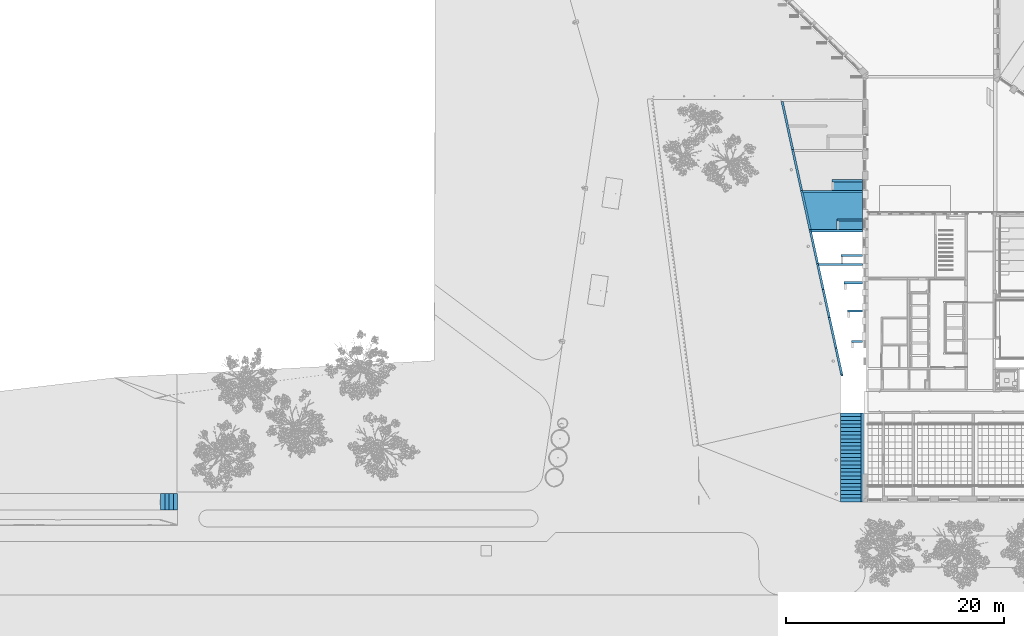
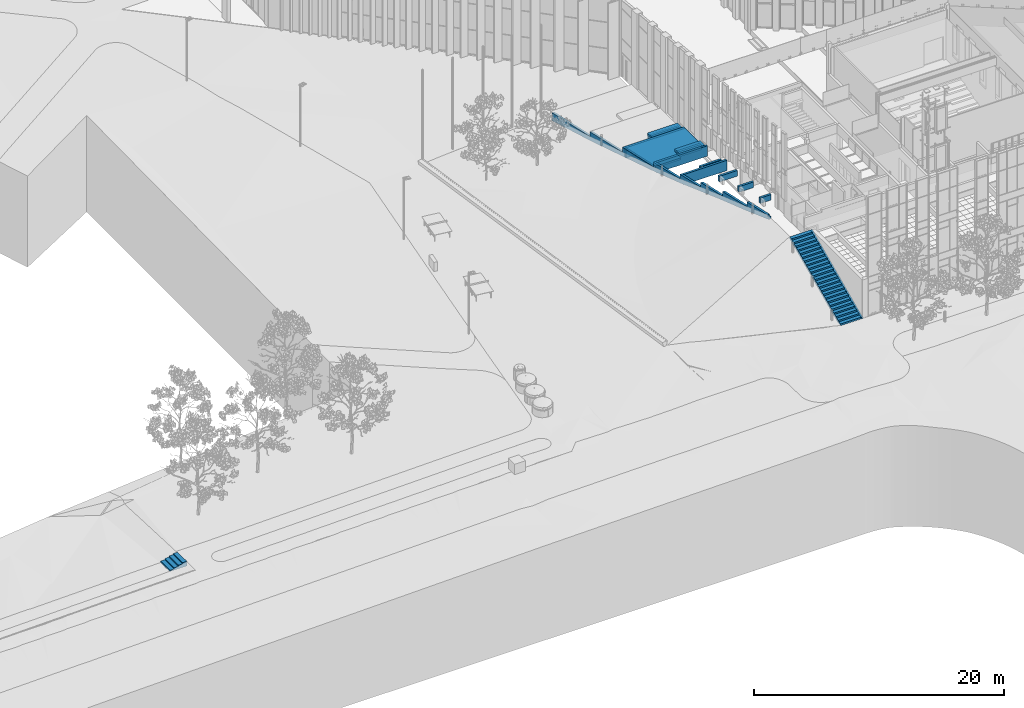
# One storey, part 138 of 246: 16 stairs.
"""IFC2X3 building model written with IfcOpenShell, lengths in millimetres."""

from ifc_helpers import new_model, entity, si_unit, converted_unit, derived_unit, money_unit, direction, frame, origin_with_axes, place, context, subcontext, project, spatial, faceted_brep, material, element, save


model = new_model("IFC2X3")

# Units and contexts
model_context = context("Model", 3, precision=0.01, world=origin_with_axes(), true_north=direction((0.0, 1.0)))
body_context = subcontext(model_context, "Body", "Model", "MODEL_VIEW")
ifc_project = project(units=[si_unit("LENGTHUNIT", "METRE", prefix="MILLI"), si_unit("AREAUNIT", "SQUARE_METRE"), si_unit("VOLUMEUNIT", "CUBIC_METRE"), converted_unit("PLANEANGLEUNIT", "DEGREE", entity("IfcPlaneAngleMeasure", 0.0174532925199), si_unit("PLANEANGLEUNIT", "RADIAN"), dimensions=[0, 0, 0, 0, 0, 0, 0]), si_unit("SOLIDANGLEUNIT", "STERADIAN"), money_unit("EUR"), converted_unit("TIMEUNIT", "Year", entity("IfcTimeMeasure", 31556926.0), si_unit("TIMEUNIT", "SECOND"), dimensions=[0, 0, 1, 0, 0, 0, 0]), si_unit("MASSUNIT", "GRAM", prefix="KILO"), si_unit("THERMODYNAMICTEMPERATUREUNIT", "DEGREE_CELSIUS"), si_unit("LUMINOUSINTENSITYUNIT", "LUMEN"), si_unit("ENERGYUNIT", "JOULE", prefix="MEGA"), derived_unit("THERMALCONDUCTANCEUNIT", [(si_unit("POWERUNIT", "WATT"), 1), (si_unit("LENGTHUNIT", "METRE"), -1), (si_unit("THERMODYNAMICTEMPERATUREUNIT", "KELVIN"), -1)]), derived_unit("SPECIFICHEATCAPACITYUNIT", [(si_unit("ENERGYUNIT", "JOULE"), 1), (si_unit("MASSUNIT", "GRAM", prefix="KILO"), -1), (si_unit("THERMODYNAMICTEMPERATUREUNIT", "KELVIN"), -1)]), derived_unit("MASSDENSITYUNIT", [(si_unit("MASSUNIT", "GRAM", prefix="KILO"), 1), (si_unit("VOLUMEUNIT", "CUBIC_METRE"), -1)])], contexts=[model_context])

# Site, building, storey
site_placement = place(None, origin_with_axes())
site = spatial("IfcSite", under=ifc_project, at=site_placement, Name="L.Koidula tn 11b", CompositionType="ELEMENT")
building_placement = place(site_placement, origin_with_axes())
building = spatial("IfcBuilding", under=site, at=building_placement, Name="Rakvere Riigigümnaasium", CompositionType="ELEMENT")
storey_placement = place(building_placement, origin_with_axes())
storey = spatial("IfcBuildingStorey", under=building, at=storey_placement, Name="1.korrus 0,00", CompositionType="ELEMENT", Elevation=0.0)

# Stairs
ifc_material_1 = material(Name="Betoon")
stair_1_placement = place(storey_placement, frame((27490.4090442, 41880.4554916, -495.0), z_axis=(0.0, 0.0, 1.0), x_axis=(0.213233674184, -0.977001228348, 0.0)))
element("IfcStair", 1, at=stair_1_placement, inside=storey, material=ifc_material_1, Name="Astmestik-1", ShapeType="NOTDEFINED", context=body_context, shape_type="Brep", body=[
    faceted_brep([(8516.01498022, 0.0, 979.335991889), (8516.01498022, 200.0, 979.335991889), (12200.5988738, 200.0, 1439.18349166), (12200.5988738, 0.0, 1439.18349166), (4677.83906907, 200.0, 515.145643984), (4677.83906907, 0.0, 515.145643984), (248.358679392, 200.0, 131.873693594), (248.358679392, 200.0, 914.0), (4741.95960415, 200.0, 914.0), (4741.95960415, 200.0, 940.0), (4741.95960415, 200.0, 1379.0), (8580.13642963, 200.0, 1379.0), (8580.13642963, 200.0, 1405.0), (8580.13642963, 200.0, 1844.0), (12264.7203232, 200.0, 1844.0), (12264.7203232, 200.0, 1870.0), (12264.7203232, 200.0, 2309.0), (15437.6947168, 200.0, 2309.0), (15437.6947168, 200.0, 2335.0), (15437.6947168, 200.0, 2774.0), (17894.1911166, 200.0, 2774.0), (17894.1911166, 200.0, 2800.0), (17894.1911166, 200.0, 3239.0), (20504.2185413, 200.0, 3239.0), (20504.2185413, 200.0, 3265.0), (20504.2185413, 200.0, 3704.0), (23370.1310077, 200.0, 3704.0), (23370.1310077, 200.0, 3730.0), (23370.1310077, 200.0, 4169.0), (25816.3684593, 200.0, 4169.0), (25816.3684593, 200.0, 4045.0), (25968.1180589, 200.0, 4045.0), (25968.1180589, 200.0, 3806.48943747), (23306.0095583, 200.0, 3299.88574973), (20440.0970919, 200.0, 2839.39379407), (17830.0696671, 200.0, 2368.13026927), (15373.5732674, 200.0, 1908.01363287), (15373.5732674, 0.0, 1908.01363287), (17830.0696671, 0.0, 2368.13026927), (20440.0970919, 0.0, 2839.39379407), (23306.0095583, 0.0, 3299.88574973), (25968.1180589, 0.0, 3806.48943747), (25968.1180589, 0.0, 4045.0), (25772.7178132, 0.0, 4045.0), (25772.7178132, 0.0, 4169.0), (23326.4803616, 0.0, 4169.0), (23326.4803616, 0.0, 3730.0), (23326.4803616, 0.0, 3704.0), (20460.5678952, 0.0, 3704.0), (20460.5678952, 0.0, 3265.0), (20460.5678952, 0.0, 3239.0), (17850.5404705, 0.0, 3239.0), (17850.5404705, 0.0, 2800.0), (17850.5404705, 0.0, 2774.0), (15394.0440707, 0.0, 2774.0), (15394.0440707, 0.0, 2335.0), (15394.0440707, 0.0, 2309.0), (12221.0696771, 0.0, 2309.0), (12221.0696771, 0.0, 1870.0), (12221.0696771, 0.0, 1844.0), (8536.48578355, 0.0, 1844.0), (8536.48578355, 0.0, 1405.0), (8536.48578355, 0.0, 1379.0), (4698.30987272, 0.00419076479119, 1379.0), (4698.30987272, 0.00419076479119, 940.0), (4698.30987272, 0.00419076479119, 914.0), (204.708033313, 0.000210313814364, 914.0), (204.708033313, 2.94753874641e-05, 128.096711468)], [[[0, 1, 2, 3]], [[4, 1, 0, 5]], [[1, 4, 6, 7, 8, 9, 10, 11, 12, 13, 14, 15, 16, 17, 18, 19, 20, 21, 22, 23, 24, 25, 26, 27, 28, 29, 30, 31, 32, 33, 34, 35, 36, 2]], [[37, 3, 2, 36]], [[5, 0, 3, 37, 38, 39, 40, 41, 42, 43, 44, 45, 46, 47, 48, 49, 50, 51, 52, 53, 54, 55, 56, 57, 58, 59, 60, 61, 62, 63, 64, 65, 66, 67]], [[4, 5, 67, 6]], [[67, 66, 7, 6]], [[65, 8, 7, 66]], [[8, 65, 64, 9]], [[9, 64, 63, 10]], [[62, 11, 10, 63]], [[12, 11, 62, 61]], [[13, 12, 61, 60]], [[60, 59, 14, 13]], [[59, 58, 15, 14]], [[58, 57, 16, 15]], [[17, 16, 57, 56]], [[55, 18, 17, 56]], [[54, 19, 18, 55]], [[19, 54, 53, 20]], [[20, 53, 52, 21]], [[21, 52, 51, 22]], [[50, 23, 22, 51]], [[49, 24, 23, 50]], [[48, 25, 24, 49]], [[25, 48, 47, 26]], [[27, 26, 47, 46]], [[28, 27, 46, 45]], [[45, 44, 29, 28]], [[43, 30, 29, 44]], [[43, 42, 31, 30]], [[31, 42, 41, 32]], [[41, 40, 33, 32]], [[39, 34, 33, 40]], [[35, 34, 39, 38]], [[35, 38, 37, 36]]]),
])
stair_2_placement = place(storey_placement, frame((34986.0000521, 34530.3410804, 349.0), z_axis=(0.0, 0.0, 1.0), x_axis=(-1.0, 0.0, 0.0)))
element("IfcStair", 2, at=stair_2_placement, inside=storey, material=ifc_material_1, Name="Astmestik-1", ShapeType="NOTDEFINED", context=body_context, shape_type="Brep", body=[
    faceted_brep([(0.0, 0.0, 544.0), (2785.69029252, 0.0, 544.0), (2785.69032133, 200.0, 544.0), (0.0, 200.0, 544.0), (0.0, 0.0, 0.0), (2785.69029252, 0.0, 0.0), (2785.69032133, 200.0, 0.0), (0.0, 200.0, 0.0)], [[[0, 1, 2, 3]], [[4, 5, 1, 0]], [[6, 2, 1, 5]], [[3, 2, 6, 7]], [[7, 4, 0, 3]], [[7, 6, 5, 4]]]),
])
stair_3_placement = place(storey_placement, frame((34986.0000521, 30930.4553281, 814.0), z_axis=(0.0, 0.0, 1.0), x_axis=(-1.0, 1.44049245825e-07, 0.0)))
element("IfcStair", 3, at=stair_3_placement, inside=storey, material=ifc_material_1, Name="Astmestik-1", ShapeType="NOTDEFINED", context=body_context, shape_type="Brep", body=[
    faceted_brep([(0.0, 0.0, 544.0), (2340.86617151, 0.0, 544.0), (2340.86617151, 200.0, 544.0), (0.0, 200.0, 544.0), (0.0, 0.0, 0.0), (2340.86617151, 0.0, 0.0), (2340.86617151, 200.0, 0.0), (0.0, 200.0, 0.0)], [[[0, 1, 2, 3]], [[4, 5, 1, 0]], [[6, 2, 1, 5]], [[3, 2, 6, 7]], [[7, 4, 0, 3]], [[7, 6, 5, 4]]]),
])
stair_4_placement = place(storey_placement, frame((34986.0000521, 27680.4553281, 1279.0), z_axis=(0.0, 0.0, 1.0), x_axis=(-1.0, 1.44049245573e-07, 0.0)))
element("IfcStair", 4, at=stair_4_placement, inside=storey, material=ifc_material_1, Name="Astmestik-1", ShapeType="NOTDEFINED", context=body_context, shape_type="Brep", body=[
    faceted_brep([(0.0, 0.0, 544.0), (1957.8064865, 0.0, 544.0), (1957.8064865, 200.0, 544.0), (0.0, 200.0, 544.0), (0.0, 0.0, 0.0), (1957.8064865, 0.0, 0.0), (1957.8064865, 200.0, 0.0), (0.0, 200.0, 0.0)], [[[0, 1, 2, 3]], [[4, 5, 1, 0]], [[6, 2, 1, 5]], [[3, 2, 6, 7]], [[7, 4, 0, 3]], [[7, 6, 5, 4]]]),
])
stair_5_placement = place(storey_placement, frame((34986.0000521, 25180.4553281, 1744.0), z_axis=(0.0, 0.0, 1.0), x_axis=(-1.0, 1.44049244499e-07, 0.0)))
element("IfcStair", 5, at=stair_5_placement, inside=storey, material=ifc_material_1, Name="Astmestik-1", ShapeType="NOTDEFINED", context=body_context, shape_type="Brep", body=[
    faceted_brep([(0.0, 0.0, 544.0), (1661.24413826, 0.0, 544.0), (1661.24413826, 200.0, 544.0), (0.0, 200.0, 544.0), (0.0, 0.0, 0.0), (1661.24413826, 0.0, 0.0), (1661.24413826, 200.0, 0.0), (0.0, 200.0, 0.0)], [[[0, 1, 2, 3]], [[4, 5, 1, 0]], [[6, 2, 1, 5]], [[3, 2, 6, 7]], [[7, 4, 0, 3]], [[7, 6, 5, 4]]]),
])
stair_6_placement = place(storey_placement, frame((34986.000055, 22580.4553314, 2209.0), z_axis=(0.0, 0.0, 1.0), x_axis=(-1.0, 1.4404924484e-07, 0.0)))
element("IfcStair", 6, at=stair_6_placement, inside=storey, material=ifc_material_1, Name="Astmestik-1", ShapeType="NOTDEFINED", context=body_context, shape_type="Brep", body=[
    faceted_brep([(0.0, 0.0, 544.0), (1346.14664613, 0.0, 544.0), (1346.14664613, 200.0, 544.0), (0.0, 200.0, 544.0), (0.0, 0.0, 0.0), (1346.14664613, 0.0, 0.0), (1346.14664613, 200.0, 0.0), (0.0, 200.0, 0.0)], [[[0, 1, 2, 3]], [[4, 5, 1, 0]], [[6, 2, 1, 5]], [[3, 2, 6, 7]], [[7, 4, 0, 3]], [[7, 6, 5, 4]]]),
])
stair_7_placement = place(storey_placement, frame((34986.000055, 19780.4553812, 2674.0), z_axis=(0.0, 0.0, 1.0), x_axis=(-1.0, 1.44049243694e-07, 0.0)))
element("IfcStair", 7, at=stair_7_placement, inside=storey, material=ifc_material_1, Name="Astmestik-1", ShapeType="NOTDEFINED", context=body_context, shape_type="Brep", body=[
    faceted_brep([(0.0, 0.0, 544.0), (1000.15723981, 0.0, 544.0), (1000.15723981, 200.0, 544.0), (0.0, 200.0, 544.0), (0.0, 0.0, 0.0), (1000.15723981, 0.0, 0.0), (1000.15723981, 200.0, 0.0), (0.0, 200.0, 0.0)], [[[0, 1, 2, 3]], [[4, 5, 1, 0]], [[6, 2, 1, 5]], [[3, 2, 6, 7]], [[7, 4, 0, 3]], [[7, 6, 5, 4]]]),
])
ifc_material_2 = material(Name="Puit-terrass")
stair_8_placement = place(storey_placement, frame((30096.3526339, 29940.4554053, 1375.0), z_axis=(0.0, 0.0, 1.0), x_axis=(1.0, 0.0, 0.0)))
element("IfcStair", 8, at=stair_8_placement, inside=storey, material=ifc_material_2, Name="Astmestik-1", ShapeType="NOTDEFINED", context=body_context, shape_type="Brep", body=[
    faceted_brep([(2548.78122928, 0.0, 0.0), (0.0, 0.0, 0.0), (0.0, 0.0, -26.0), (2548.78122928, 0.0, -26.0), (4889.64741821, 3599.84298996, 0.0), (-785.677361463, 3599.84298996, 0.0), (2548.78122928, 990.000119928, 0.0), (4889.64741821, 990.000119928, 0.0), (-785.677361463, 3599.84298996, -26.0), (2548.78122928, 990.000119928, -26.0), (4889.64741821, 3599.84298996, -26.0), (4889.64741821, 990.000119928, -26.0)], [[[0, 1, 2, 3]], [[4, 5, 1, 0, 6, 7]], [[1, 5, 8, 2]], [[9, 3, 2, 8, 10, 11]], [[6, 0, 3, 9]], [[5, 4, 10, 8]], [[7, 6, 9, 11]], [[4, 7, 11, 10]]]),
])
stair_9_placement = place(storey_placement, frame((35086.0181537, 4985.7921937, -20.0260178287), z_axis=(0.0, 0.0, 1.0), x_axis=(0.0, 1.0, 0.0)))
element("IfcStair", 9, at=stair_9_placement, inside=storey, material=ifc_material_1, Name="VTR-01", ShapeType="NOTDEFINED", context=body_context, shape_type="Brep", body=[
    faceted_brep([(8160.0, 199.916505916, 3720.0), (8160.0, 199.916505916, 3718.74268389), (8160.0, 0.0, 3718.74268389), (8160.0, 0.0, 3500.19747775), (8160.0, 2100.0, 3500.19747775), (8160.0, 2100.0, 3720.0), (7820.0, 199.916505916, 3720.0), (7820.0, 199.916505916, 3565.0), (7480.0, 199.916505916, 3565.0), (7480.0, 199.916505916, 3410.0), (7140.0, 199.916505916, 3410.0), (7140.0, 199.916505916, 3255.0), (6800.0, 199.916505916, 3255.0), (6800.0, 199.916505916, 3100.0), (6460.0, 199.916505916, 3100.0), (6460.0, 199.916505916, 2945.0), (6120.0, 199.916505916, 2945.0), (6120.0, 199.916505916, 2790.0), (5780.0, 199.916505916, 2790.0), (5780.0, 199.916505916, 2635.0), (5440.0, 199.916505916, 2635.0), (5440.0, 199.916505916, 2480.0), (5100.0, 199.916505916, 2480.0), (5100.0, 199.916505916, 2325.0), (4760.0, 199.916505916, 2325.0), (4760.0, 199.916505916, 2170.0), (4420.0, 199.916505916, 2170.0), (4420.0, 199.916505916, 2015.0), (4080.0, 199.916505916, 2015.0), (4080.0, 199.916505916, 1860.0), (3740.0, 199.916505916, 1860.0), (3740.0, 199.916505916, 1705.0), (3400.0, 199.916505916, 1705.0), (3400.0, 199.916505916, 1550.0), (3060.0, 199.916505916, 1550.0), (3060.0, 199.916505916, 1395.0), (2720.0, 199.916505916, 1395.0), (2720.0, 199.916505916, 1240.0), (2380.0, 199.916505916, 1240.0), (2380.0, 199.916505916, 1085.0), (2040.0, 199.916505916, 1085.0), (2040.0, 199.916505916, 930.0), (1700.0, 199.916505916, 930.0), (1700.0, 199.916505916, 775.0), (1360.0, 199.916505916, 775.0), (1360.0, 199.916505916, 620.0), (1020.0, 199.916505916, 620.0), (1020.0, 199.916505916, 465.0), (680.0, 199.916505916, 465.0), (680.0, 199.916505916, 310.0), (340.0, 199.916505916, 310.0), (340.0, 199.916505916, 155.0), (0.0, 199.916505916, 155.0), (0.0, 199.916505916, 0.0), (3.5273295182, 199.916505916, 0.0), (3.5273295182, 0.0, 0.0), (482.147468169, 0.0, 0.0), (510.0, 0.0, 12.6974777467), (595.0, 0.0, 51.4474777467), (680.0, 0.0, 90.1974777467), (765.0, 0.0, 128.947477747), (850.0, 0.0, 167.697477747), (935.0, 0.0, 206.447477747), (1020.0, 0.0, 245.197477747), (1105.0, 0.0, 283.947477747), (1190.0, 0.0, 322.697477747), (1275.0, 0.0, 361.447477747), (1360.0, 0.0, 400.197477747), (1445.0, 0.0, 438.947477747), (1530.0, 0.0, 477.697477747), (1615.0, 0.0, 516.447477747), (1700.0, 0.0, 555.197477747), (1785.0, 0.0, 593.947477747), (1870.0, 0.0, 632.697477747), (1955.0, 0.0, 671.447477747), (2040.0, 0.0, 710.197477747), (2125.0, 0.0, 748.947477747), (2210.0, 0.0, 787.697477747), (2295.0, 0.0, 826.447477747), (2380.0, 0.0, 865.197477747), (2465.0, 0.0, 903.947477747), (2550.0, 0.0, 942.697477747), (2635.0, 0.0, 981.447477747), (2720.0, 0.0, 1020.19747775), (2805.0, 0.0, 1058.94747775), (2890.0, 0.0, 1097.69747775), (2975.0, 0.0, 1136.44747775), (3060.0, 0.0, 1175.19747775), (3145.0, 0.0, 1213.94747775), (3230.0, 0.0, 1252.69747775), (3315.0, 0.0, 1291.44747775), (3400.0, 0.0, 1330.19747775), (3485.0, 0.0, 1368.94747775), (3570.0, 0.0, 1407.69747775), (3655.0, 0.0, 1446.44747775), (3740.0, 0.0, 1485.19747775), (3825.0, 0.0, 1523.94747775), (3910.0, 0.0, 1562.69747775), (3995.0, 0.0, 1601.44747775), (4080.0, 0.0, 1640.19747775), (4165.0, 0.0, 1678.94747775), (4250.0, 0.0, 1717.69747775), (4335.0, 0.0, 1756.44747775), (4420.0, 0.0, 1795.19747775), (4505.0, 0.0, 1833.94747775), (4590.0, 0.0, 1872.69747775), (4675.0, 0.0, 1911.44747775), (4760.0, 0.0, 1950.19747775), (4845.0, 0.0, 1988.94747775), (4930.0, 0.0, 2027.69747775), (5015.0, 0.0, 2066.44747775), (5100.0, 0.0, 2105.19747775), (5185.0, 0.0, 2143.94747775), (5270.0, 0.0, 2182.69747775), (5355.0, 0.0, 2221.44747775), (5440.0, 0.0, 2260.19747775), (5525.0, 0.0, 2298.94747775), (5610.0, 0.0, 2337.69747775), (5695.0, 0.0, 2376.44747775), (5780.0, 0.0, 2415.19747775), (5865.0, 0.0, 2453.94747775), (5950.0, 0.0, 2492.69747775), (6035.0, 0.0, 2531.44747775), (6120.0, 0.0, 2570.19747775), (6205.0, 0.0, 2608.94747775), (6290.0, 0.0, 2647.69747775), (6375.0, 0.0, 2686.44747775), (6460.0, 0.0, 2725.19747775), (6545.0, 0.0, 2763.94747775), (6630.0, 0.0, 2802.69747775), (6715.0, 0.0, 2841.44747775), (6800.0, 0.0, 2880.19747775), (6885.0, 0.0, 2918.94747775), (6970.0, 0.0, 2957.69747775), (7055.0, 0.0, 2996.44747775), (7140.0, 0.0, 3035.19747775), (7225.0, 0.0, 3073.94747775), (7310.0, 0.0, 3112.69747775), (7395.0, 0.0, 3151.44747775), (7480.0, 0.0, 3190.19747775), (7565.0, 0.0, 3228.94747775), (7650.0, 0.0, 3267.69747775), (7735.0, 0.0, 3306.44747775), (7820.0, 0.0, 3345.19747775), (7905.0, 0.0, 3383.94747775), (7990.0, 0.0, 3422.69747775), (8075.0, 0.0, 3461.44747775), (8075.0, 2100.0, 3461.44747775), (510.0, 2100.0, 12.6974777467), (482.147468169, 2100.0, 0.0), (0.0, 2100.0, 0.0), (0.0, 2100.0, 155.0), (340.0, 2100.0, 155.0), (340.0, 2100.0, 310.0), (680.0, 2100.0, 310.0), (680.0, 2100.0, 465.0), (1020.0, 2100.0, 465.0), (1020.0, 2100.0, 620.0), (1360.0, 2100.0, 620.0), (1360.0, 2100.0, 775.0), (1700.0, 2100.0, 775.0), (1700.0, 2100.0, 930.0), (2040.0, 2100.0, 930.0), (2040.0, 2100.0, 1085.0), (2380.0, 2100.0, 1085.0), (2380.0, 2100.0, 1240.0), (2720.0, 2100.0, 1240.0), (2720.0, 2100.0, 1395.0), (3060.0, 2100.0, 1395.0), (3060.0, 2100.0, 1550.0), (3400.0, 2100.0, 1550.0), (3400.0, 2100.0, 1705.0), (3740.0, 2100.0, 1705.0), (3740.0, 2100.0, 1860.0), (4080.0, 2100.0, 1860.0), (4080.0, 2100.0, 2015.0), (4420.0, 2100.0, 2015.0), (4420.0, 2100.0, 2170.0), (4760.0, 2100.0, 2170.0), (4760.0, 2100.0, 2325.0), (5100.0, 2100.0, 2325.0), (5100.0, 2100.0, 2480.0), (5440.0, 2100.0, 2480.0), (5440.0, 2100.0, 2635.0), (5780.0, 2100.0, 2635.0), (5780.0, 2100.0, 2790.0), (6120.0, 2100.0, 2790.0), (6120.0, 2100.0, 2945.0), (6460.0, 2100.0, 2945.0), (6460.0, 2100.0, 3100.0), (6800.0, 2100.0, 3100.0), (6800.0, 2100.0, 3255.0), (7140.0, 2100.0, 3255.0), (7140.0, 2100.0, 3410.0), (7480.0, 2100.0, 3410.0), (7480.0, 2100.0, 3565.0), (7820.0, 2100.0, 3565.0), (7820.0, 2100.0, 3720.0), (7990.0, 2100.0, 3422.69747775), (7905.0, 2100.0, 3383.94747775), (7820.0, 2100.0, 3345.19747775), (7735.0, 2100.0, 3306.44747775), (7650.0, 2100.0, 3267.69747775), (7565.0, 2100.0, 3228.94747775), (7480.0, 2100.0, 3190.19747775), (7395.0, 2100.0, 3151.44747775), (7310.0, 2100.0, 3112.69747775), (7225.0, 2100.0, 3073.94747775), (7140.0, 2100.0, 3035.19747775), (7055.0, 2100.0, 2996.44747775), (6970.0, 2100.0, 2957.69747775), (6885.0, 2100.0, 2918.94747775), (6800.0, 2100.0, 2880.19747775), (6715.0, 2100.0, 2841.44747775), (6630.0, 2100.0, 2802.69747775), (6545.0, 2100.0, 2763.94747775), (6460.0, 2100.0, 2725.19747775), (6375.0, 2100.0, 2686.44747775), (6290.0, 2100.0, 2647.69747775), (6205.0, 2100.0, 2608.94747775), (6120.0, 2100.0, 2570.19747775), (6035.0, 2100.0, 2531.44747775), (5950.0, 2100.0, 2492.69747775), (5865.0, 2100.0, 2453.94747775), (5780.0, 2100.0, 2415.19747775), (5695.0, 2100.0, 2376.44747775), (5610.0, 2100.0, 2337.69747775), (5525.0, 2100.0, 2298.94747775), (5440.0, 2100.0, 2260.19747775), (5355.0, 2100.0, 2221.44747775), (5270.0, 2100.0, 2182.69747775), (5185.0, 2100.0, 2143.94747775), (5100.0, 2100.0, 2105.19747775), (5015.0, 2100.0, 2066.44747775), (4930.0, 2100.0, 2027.69747775), (4845.0, 2100.0, 1988.94747775), (4760.0, 2100.0, 1950.19747775), (4675.0, 2100.0, 1911.44747775), (4590.0, 2100.0, 1872.69747775), (4505.0, 2100.0, 1833.94747775), (4420.0, 2100.0, 1795.19747775), (4335.0, 2100.0, 1756.44747775), (4250.0, 2100.0, 1717.69747775), (4165.0, 2100.0, 1678.94747775), (4080.0, 2100.0, 1640.19747775), (3995.0, 2100.0, 1601.44747775), (3910.0, 2100.0, 1562.69747775), (3825.0, 2100.0, 1523.94747775), (3740.0, 2100.0, 1485.19747775), (3655.0, 2100.0, 1446.44747775), (3570.0, 2100.0, 1407.69747775), (3485.0, 2100.0, 1368.94747775), (3400.0, 2100.0, 1330.19747775), (3315.0, 2100.0, 1291.44747775), (3230.0, 2100.0, 1252.69747775), (3145.0, 2100.0, 1213.94747775), (3060.0, 2100.0, 1175.19747775), (2975.0, 2100.0, 1136.44747775), (2890.0, 2100.0, 1097.69747775), (2805.0, 2100.0, 1058.94747775), (2720.0, 2100.0, 1020.19747775), (2635.0, 2100.0, 981.447477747), (2550.0, 2100.0, 942.697477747), (2465.0, 2100.0, 903.947477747), (2380.0, 2100.0, 865.197477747), (2295.0, 2100.0, 826.447477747), (2210.0, 2100.0, 787.697477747), (2125.0, 2100.0, 748.947477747), (2040.0, 2100.0, 710.197477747), (1955.0, 2100.0, 671.447477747), (1870.0, 2100.0, 632.697477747), (1785.0, 2100.0, 593.947477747), (1700.0, 2100.0, 555.197477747), (1615.0, 2100.0, 516.447477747), (1530.0, 2100.0, 477.697477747), (1445.0, 2100.0, 438.947477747), (1360.0, 2100.0, 400.197477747), (1275.0, 2100.0, 361.447477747), (1190.0, 2100.0, 322.697477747), (1105.0, 2100.0, 283.947477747), (1020.0, 2100.0, 245.197477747), (935.0, 2100.0, 206.447477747), (850.0, 2100.0, 167.697477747), (765.0, 2100.0, 128.947477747), (680.0, 2100.0, 90.1974777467), (595.0, 2100.0, 51.4474777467)], [[[0, 1, 2, 3, 4, 5]], [[1, 0, 6, 7, 8, 9, 10, 11, 12, 13, 14, 15, 16, 17, 18, 19, 20, 21, 22, 23, 24, 25, 26, 27, 28, 29, 30, 31, 32, 33, 34, 35, 36, 37, 38, 39, 40, 41, 42, 43, 44, 45, 46, 47, 48, 49, 50, 51, 52, 53, 54]], [[55, 2, 1, 54]], [[2, 55, 56, 57, 58, 59, 60, 61, 62, 63, 64, 65, 66, 67, 68, 69, 70, 71, 72, 73, 74, 75, 76, 77, 78, 79, 80, 81, 82, 83, 84, 85, 86, 87, 88, 89, 90, 91, 92, 93, 94, 95, 96, 97, 98, 99, 100, 101, 102, 103, 104, 105, 106, 107, 108, 109, 110, 111, 112, 113, 114, 115, 116, 117, 118, 119, 120, 121, 122, 123, 124, 125, 126, 127, 128, 129, 130, 131, 132, 133, 134, 135, 136, 137, 138, 139, 140, 141, 142, 143, 144, 145, 146, 3]], [[146, 147, 4, 3]], [[148, 149, 150, 151, 152, 153, 154, 155, 156, 157, 158, 159, 160, 161, 162, 163, 164, 165, 166, 167, 168, 169, 170, 171, 172, 173, 174, 175, 176, 177, 178, 179, 180, 181, 182, 183, 184, 185, 186, 187, 188, 189, 190, 191, 192, 193, 194, 195, 196, 197, 5, 4, 147, 198, 199, 200, 201, 202, 203, 204, 205, 206, 207, 208, 209, 210, 211, 212, 213, 214, 215, 216, 217, 218, 219, 220, 221, 222, 223, 224, 225, 226, 227, 228, 229, 230, 231, 232, 233, 234, 235, 236, 237, 238, 239, 240, 241, 242, 243, 244, 245, 246, 247, 248, 249, 250, 251, 252, 253, 254, 255, 256, 257, 258, 259, 260, 261, 262, 263, 264, 265, 266, 267, 268, 269, 270, 271, 272, 273, 274, 275, 276, 277, 278, 279, 280, 281, 282, 283, 284, 285]], [[6, 0, 5, 197]], [[7, 6, 197, 196]], [[8, 7, 196, 195]], [[9, 8, 195, 194]], [[10, 9, 194, 193]], [[11, 10, 193, 192]], [[12, 11, 192, 191]], [[13, 12, 191, 190]], [[14, 13, 190, 189]], [[15, 14, 189, 188]], [[16, 15, 188, 187]], [[17, 16, 187, 186]], [[18, 17, 186, 185]], [[19, 18, 185, 184]], [[20, 19, 184, 183]], [[21, 20, 183, 182]], [[22, 21, 182, 181]], [[23, 22, 181, 180]], [[24, 23, 180, 179]], [[25, 24, 179, 178]], [[26, 25, 178, 177]], [[27, 26, 177, 176]], [[28, 27, 176, 175]], [[29, 28, 175, 174]], [[30, 29, 174, 173]], [[31, 30, 173, 172]], [[32, 31, 172, 171]], [[33, 32, 171, 170]], [[34, 33, 170, 169]], [[35, 34, 169, 168]], [[36, 35, 168, 167]], [[37, 36, 167, 166]], [[38, 37, 166, 165]], [[39, 38, 165, 164]], [[40, 39, 164, 163]], [[41, 40, 163, 162]], [[42, 41, 162, 161]], [[43, 42, 161, 160]], [[44, 43, 160, 159]], [[45, 44, 159, 158]], [[46, 45, 158, 157]], [[47, 46, 157, 156]], [[48, 47, 156, 155]], [[49, 48, 155, 154]], [[50, 49, 154, 153]], [[51, 50, 153, 152]], [[52, 51, 152, 151]], [[53, 52, 151, 150]], [[54, 53, 150, 149, 56, 55]], [[57, 56, 149, 148]], [[58, 57, 148, 285]], [[59, 58, 285, 284]], [[60, 59, 284, 283]], [[61, 60, 283, 282]], [[62, 61, 282, 281]], [[63, 62, 281, 280]], [[64, 63, 280, 279]], [[65, 64, 279, 278]], [[66, 65, 278, 277]], [[67, 66, 277, 276]], [[68, 67, 276, 275]], [[69, 68, 275, 274]], [[70, 69, 274, 273]], [[71, 70, 273, 272]], [[72, 71, 272, 271]], [[73, 72, 271, 270]], [[74, 73, 270, 269]], [[75, 74, 269, 268]], [[76, 75, 268, 267]], [[77, 76, 267, 266]], [[78, 77, 266, 265]], [[79, 78, 265, 264]], [[80, 79, 264, 263]], [[81, 80, 263, 262]], [[82, 81, 262, 261]], [[83, 82, 261, 260]], [[84, 83, 260, 259]], [[85, 84, 259, 258]], [[86, 85, 258, 257]], [[87, 86, 257, 256]], [[88, 87, 256, 255]], [[89, 88, 255, 254]], [[90, 89, 254, 253]], [[91, 90, 253, 252]], [[92, 91, 252, 251]], [[93, 92, 251, 250]], [[94, 93, 250, 249]], [[95, 94, 249, 248]], [[96, 95, 248, 247]], [[97, 96, 247, 246]], [[98, 97, 246, 245]], [[99, 98, 245, 244]], [[100, 99, 244, 243]], [[101, 100, 243, 242]], [[102, 101, 242, 241]], [[103, 102, 241, 240]], [[104, 103, 240, 239]], [[105, 104, 239, 238]], [[106, 105, 238, 237]], [[107, 106, 237, 236]], [[108, 107, 236, 235]], [[109, 108, 235, 234]], [[110, 109, 234, 233]], [[111, 110, 233, 232]], [[112, 111, 232, 231]], [[113, 112, 231, 230]], [[114, 113, 230, 229]], [[115, 114, 229, 228]], [[116, 115, 228, 227]], [[117, 116, 227, 226]], [[118, 117, 226, 225]], [[119, 118, 225, 224]], [[120, 119, 224, 223]], [[121, 120, 223, 222]], [[122, 121, 222, 221]], [[123, 122, 221, 220]], [[124, 123, 220, 219]], [[125, 124, 219, 218]], [[126, 125, 218, 217]], [[127, 126, 217, 216]], [[128, 127, 216, 215]], [[129, 128, 215, 214]], [[130, 129, 214, 213]], [[131, 130, 213, 212]], [[132, 131, 212, 211]], [[133, 132, 211, 210]], [[134, 133, 210, 209]], [[135, 134, 209, 208]], [[136, 135, 208, 207]], [[137, 136, 207, 206]], [[138, 137, 206, 205]], [[139, 138, 205, 204]], [[140, 139, 204, 203]], [[141, 140, 203, 202]], [[142, 141, 202, 201]], [[143, 142, 201, 200]], [[144, 143, 200, 199]], [[145, 144, 199, 198]], [[146, 145, 198, 147]]]),
])
stair_10_placement = place(storey_placement, frame((32645.1338632, 29940.4554053, 1608.0), z_axis=(0.0, 0.0, 1.0), x_axis=(1.0, 0.0, 0.0)))
element("IfcStair", 10, at=stair_10_placement, inside=storey, material=ifc_material_1, Name="Astmestik-1", ShapeType="NOTDEFINED", context=body_context, shape_type="Brep", body=[
    faceted_brep([(0.0, 0.0, 0.0), (0.0, 0.0, -250.0), (2340.86618893, 0.0, -250.0), (2340.86618893, 0.0, 0.0), (0.0, 990.000119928, 0.0), (0.0, 990.000119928, -250.0), (2340.86618893, 990.000119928, -250.0), (2340.86618893, 990.000119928, 0.0)], [[[0, 1, 2, 3]], [[4, 5, 1, 0]], [[2, 1, 5, 6]], [[3, 2, 6, 7]], [[4, 0, 3, 7]], [[7, 6, 5, 4]]]),
])
stair_11_placement = place(storey_placement, frame((32200.3097422, 33540.2983953, 1143.0), z_axis=(0.0, 0.0, 1.0), x_axis=(1.0, 0.0, 0.0)))
element("IfcStair", 11, at=stair_11_placement, inside=storey, material=ifc_material_1, Name="Astmestik-1", ShapeType="NOTDEFINED", context=body_context, shape_type="Brep", body=[
    faceted_brep([(0.0, 0.0, 0.0), (0.0, 0.0, -250.0), (2785.69030995, 0.0, -250.0), (2785.69030995, 0.0, 0.0), (0.0, 990.042685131, 0.0), (0.0, 990.042685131, -250.0), (2785.69030995, 990.042685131, -250.0), (2785.69030995, 990.042685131, 0.0)], [[[0, 1, 2, 3]], [[4, 5, 1, 0]], [[2, 1, 5, 6]], [[3, 2, 6, 7]], [[4, 0, 3, 7]], [[7, 6, 5, 4]]]),
])
ifc_material_3 = material(Name="Karkass-puit")
stair_12_placement = place(storey_placement, frame((30198.823499, 29940.4554053, 1349.0), z_axis=(0.0, 0.0, 1.0), x_axis=(1.0, 0.0, 0.0)))
element("IfcStair", 12, at=stair_12_placement, inside=storey, material=ifc_material_3, Name="Astmestik-1", ShapeType="NOTDEFINED", context=body_context, shape_type="Brep", body=[
    faceted_brep([(4787.17655318, 3399.84455903, 0.0), (-639.789889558, 3399.84455903, 0.0), (102.237168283, 0.0, 0.0), (2446.31036424, 0.0, 0.0), (2446.31036424, 989.999922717, 0.0), (4787.17655318, 989.999922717, 0.0), (4787.17655318, 3399.84455903, -200.0), (-639.789889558, 3399.84455903, -200.0), (102.237168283, 0.0, -200.0), (2446.31036424, 0.0, -200.0), (2446.31036424, 989.999922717, -200.0), (4787.17655318, 989.999922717, -200.0)], [[[0, 1, 2, 3, 4, 5]], [[6, 7, 1, 0]], [[7, 8, 2, 1]], [[3, 2, 8, 9]], [[4, 3, 9, 10]], [[5, 4, 10, 11]], [[0, 5, 11, 6]], [[9, 8, 7, 6, 11, 10]]]),
])
stair_13_placement = place(storey_placement, frame((34986.0002019, 33540.3410207, 350.0), z_axis=(0.0, 0.0, 1.0), x_axis=(-0.999999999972, -7.50488514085e-06, 0.0)))
element("IfcStair", 13, at=stair_13_placement, inside=storey, material=ifc_material_1, Name="Astmestik-1", ShapeType="NOTDEFINED", context=body_context, shape_type="Brep", body=[
    faceted_brep([(0.0, 200.0, 999.0), (0.0, 200.0, 0.0), (0.0, 0.0, 0.0), (0.000149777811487, -1.1226575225e-09, 543.0), (0.000150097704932, 0.0426254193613, 543.0), (0.000150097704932, 0.0426254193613, 793.0), (0.000149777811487, -1.1226575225e-09, 793.0), (0.0, 0.0, 999.0), (5470.6168963, 200.0, 0.0), (5470.6168963, 200.0, 999.0), (5470.6168963, 0.0, 0.0), (5470.6168963, 0.0, 999.0), (2785.69045981, 0.0, 793.0), (2785.69045981, 0.0, 543.0), (2785.69045997, 0.0217191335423, 543.0), (2785.69045997, 0.0217191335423, 793.0)], [[[0, 1, 2, 3, 4, 5, 6, 7]], [[8, 1, 0, 9]], [[10, 2, 1, 8]], [[11, 7, 6, 12, 13, 3, 2, 10]], [[4, 3, 13, 14]], [[5, 4, 14, 15]], [[12, 6, 5, 15]], [[9, 0, 7, 11]], [[10, 8, 9, 11]], [[13, 12, 15, 14]]]),
])
stair_14_placement = place(storey_placement, frame((34986.0000521, 29940.4554053, 815.0), z_axis=(0.0, 0.0, 1.0), x_axis=(-1.0, 0.0, 0.0)))
element("IfcStair", 14, at=stair_14_placement, inside=storey, material=ifc_material_1, Name="Astmestik-1", ShapeType="NOTDEFINED", context=body_context, shape_type="Brep", body=[
    faceted_brep([(4684.93938489, 0.0, 999.0), (4684.93938489, 200.0, 999.0), (0.0, 200.0, 999.0), (0.0, 0.0, 999.0), (4684.93938489, 0.0, 0.0), (4684.93938489, 200.0, 0.0), (0.0, 200.0, 0.0), (0.0, 0.0, 0.0)], [[[0, 1, 2, 3]], [[0, 4, 5, 1]], [[1, 5, 6, 2]], [[3, 2, 6, 7]], [[4, 0, 3, 7]], [[5, 4, 7, 6]]]),
])
stair_15_placement = place(storey_placement, frame((34986.0000521, 26840.4555253, 1280.0), z_axis=(0.0, 0.0, 1.0), x_axis=(-1.0, 0.0, 0.0)))
element("IfcStair", 15, at=stair_15_placement, inside=storey, material=ifc_material_1, Name="Astmestik-1", ShapeType="NOTDEFINED", context=body_context, shape_type="Brep", body=[
    faceted_brep([(4008.35439685, 0.0, 999.0), (4008.35439685, 200.0, 999.0), (0.0, 200.0, 999.0), (0.0, 0.0, 999.0), (4008.35439685, 0.0, 0.0), (4008.35439685, 200.0, 0.0), (0.0, 200.0, 0.0), (0.0, 0.0, 0.0)], [[[0, 1, 2, 3]], [[0, 4, 5, 1]], [[1, 5, 6, 2]], [[3, 2, 6, 7]], [[4, 0, 3, 7]], [[5, 4, 7, 6]]]),
])
stair_16_placement = place(storey_placement, frame((-29365.4439933, 5736.37587448, -1739.61784706), z_axis=(0.0, 0.0, 1.0), x_axis=(1.0, 0.0, 0.0)))
element("IfcStair", 16, at=stair_16_placement, inside=storey, material=ifc_material_1, Name="Välistrepp", ShapeType="NOTDEFINED", context=body_context, shape_type="Brep", body=[
    faceted_brep([(1169.96156141, -1500.0299813, 337.5), (1169.99999962, -0.0299817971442, 337.5), (779.999999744, -0.0199878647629, 337.5), (779.961561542, -1500.01998737, 337.5), (1169.96156141, -1500.0299813, 450.0), (1169.99999962, -0.0299817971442, 450.0), (0.0, 0.0, 0.0), (0.0, 0.0, 112.5), (389.999999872, -0.00999393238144, 112.5), (389.999999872, -0.00999393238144, 225.0), (779.999999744, -0.0199878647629, 225.0), (1559.99999949, -0.0399757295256, 450.0), (1559.99999949, -0.0399757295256, 0.0), (779.961561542, -1500.01998737, 225.0), (389.96156167, -1500.00999344, 225.0), (389.96156167, -1500.00999344, 112.5), (-0.038438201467, -1499.99999951, 112.5), (-0.038438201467, -1499.99999951, 0.0), (1559.96156129, -1500.03997524, 0.0), (1559.96156129, -1500.03997524, 450.0)], [[[0, 1, 2, 3]], [[1, 0, 4, 5]], [[6, 7, 8, 9, 10, 2, 1, 5, 11, 12]], [[10, 13, 3, 2]], [[0, 3, 13, 14, 15, 16, 17, 18, 19, 4]], [[11, 5, 4, 19]], [[7, 6, 17, 16]], [[15, 8, 7, 16]], [[8, 15, 14, 9]], [[13, 10, 9, 14]], [[19, 18, 12, 11]], [[12, 18, 17, 6]]]),
])

save(model, "model.ifc")
